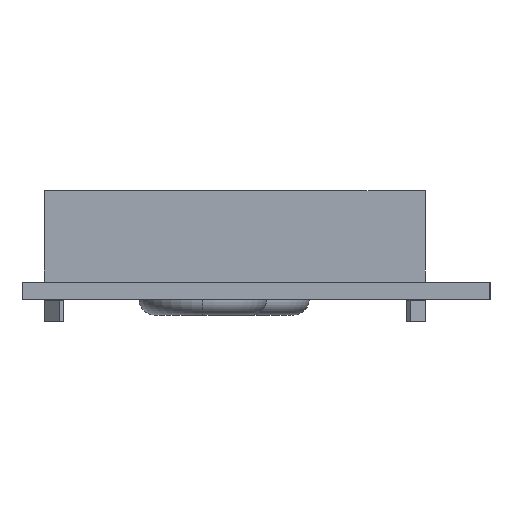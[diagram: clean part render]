
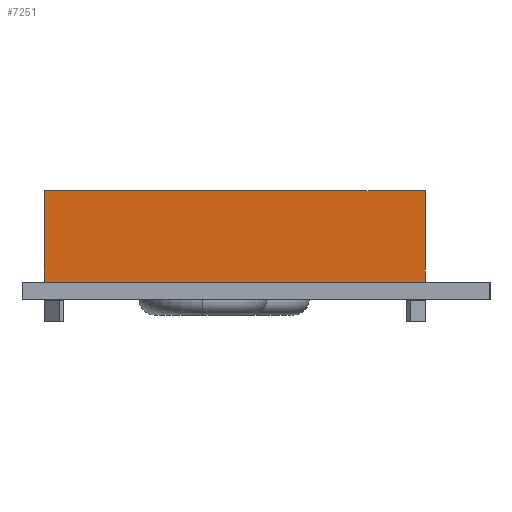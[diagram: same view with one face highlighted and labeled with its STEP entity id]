
A CAD part, left-side view. The second image highlights one B-rep face of the part: STEP entity #7251.
In plain terms, the highlighted planar face has unit normal (-1, 0, 0).
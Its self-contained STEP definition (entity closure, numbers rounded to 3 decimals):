
#176 = VECTOR ( 'NONE', #14839, 1000. ) ;
#290 = EDGE_CURVE ( 'NONE', #17153, #2349, #604, .T. ) ;
#604 = LINE ( 'NONE', #9346, #176 ) ;
#691 = LINE ( 'NONE', #3788, #11342 ) ;
#1322 = CARTESIAN_POINT ( 'NONE',  ( -53., -15.9, 1.6 ) ) ;
#1390 = DIRECTION ( 'NONE',  ( 1., 0., 0. ) ) ;
#2349 = VERTEX_POINT ( 'NONE', #11536 ) ;
#2534 = DIRECTION ( 'NONE',  ( 0., -1., 0. ) ) ;
#3243 = CARTESIAN_POINT ( 'NONE',  ( -53., -15.9, 10.2 ) ) ;
#3788 = CARTESIAN_POINT ( 'NONE',  ( -53., 19.9, 10.2 ) ) ;
#3908 = CARTESIAN_POINT ( 'NONE',  ( -53., 19.9, 1.6 ) ) ;
#5124 = DIRECTION ( 'NONE',  ( 0., 0., -1. ) ) ;
#5842 = ORIENTED_EDGE ( 'NONE', *, *, #7688, .T. ) ;
#5865 = EDGE_LOOP ( 'NONE', ( #13309, #9735, #9403, #5842 ) ) ;
#6001 = LINE ( 'NONE', #3908, #12825 ) ;
#6056 = FACE_OUTER_BOUND ( 'NONE', #5865, .T. ) ;
#6806 = CARTESIAN_POINT ( 'NONE',  ( -53., 19.9, 10.2 ) ) ;
#7158 = PLANE ( 'NONE',  #15960 ) ;
#7251 = ADVANCED_FACE ( 'NONE', ( #6056 ), #7158, .F. ) ;
#7688 = EDGE_CURVE ( 'NONE', #17153, #15891, #691, .T. ) ;
#7753 = EDGE_CURVE ( 'NONE', #15891, #16653, #6001, .T. ) ;
#8004 = CARTESIAN_POINT ( 'NONE',  ( -53., 19.9, 1.6 ) ) ;
#8914 = VECTOR ( 'NONE', #15643, 1000. ) ;
#9346 = CARTESIAN_POINT ( 'NONE',  ( -53., 19.9, 10.2 ) ) ;
#9403 = ORIENTED_EDGE ( 'NONE', *, *, #290, .F. ) ;
#9563 = CARTESIAN_POINT ( 'NONE',  ( -53., 19.9, 10.2 ) ) ;
#9735 = ORIENTED_EDGE ( 'NONE', *, *, #16267, .F. ) ;
#10928 = DIRECTION ( 'NONE',  ( 0., 1., 0. ) ) ;
#11342 = VECTOR ( 'NONE', #5124, 1000. ) ;
#11536 = CARTESIAN_POINT ( 'NONE',  ( -53., -15.9, 10.2 ) ) ;
#12825 = VECTOR ( 'NONE', #2534, 1000. ) ;
#13309 = ORIENTED_EDGE ( 'NONE', *, *, #7753, .T. ) ;
#14839 = DIRECTION ( 'NONE',  ( 0., -1., 0. ) ) ;
#15643 = DIRECTION ( 'NONE',  ( 0., 0., -1. ) ) ;
#15891 = VERTEX_POINT ( 'NONE', #8004 ) ;
#15960 = AXIS2_PLACEMENT_3D ( 'NONE', #9563, #1390, #10928 ) ;
#16210 = LINE ( 'NONE', #3243, #8914 ) ;
#16267 = EDGE_CURVE ( 'NONE', #2349, #16653, #16210, .T. ) ;
#16653 = VERTEX_POINT ( 'NONE', #1322 ) ;
#17153 = VERTEX_POINT ( 'NONE', #6806 ) ;
